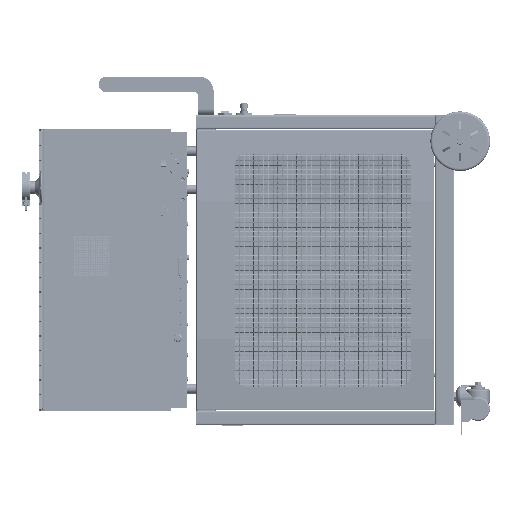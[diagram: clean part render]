
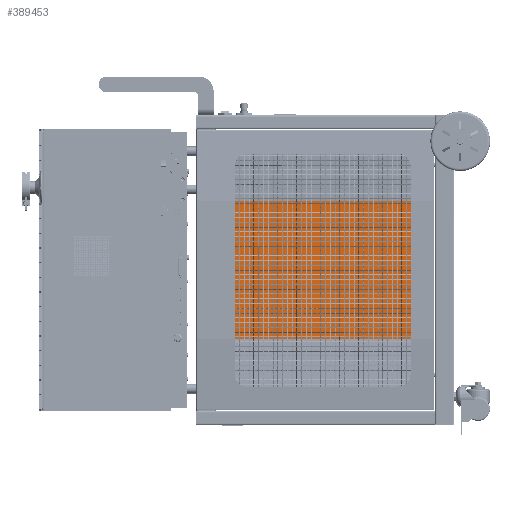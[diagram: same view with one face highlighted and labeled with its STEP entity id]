
A CAD part, left-side view. The second image highlights one B-rep face of the part: STEP entity #389453.
In plain terms, the highlighted planar face has unit normal (-1, 0, 0).
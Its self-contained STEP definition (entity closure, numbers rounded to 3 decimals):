
#14247 = CARTESIAN_POINT ( 'NONE',  ( 131.796, 175.038, 646.501 ) ) ;
#20775 = ORIENTED_EDGE ( 'NONE', *, *, #208287, .T. ) ;
#49346 = CARTESIAN_POINT ( 'NONE',  ( 131.796, 175.038, 934.42 ) ) ;
#58476 = CARTESIAN_POINT ( 'NONE',  ( 131.796, 175.038, 646.581 ) ) ;
#69037 = DIRECTION ( 'NONE',  ( 0., 0., -1. ) ) ;
#95140 = ORIENTED_EDGE ( 'NONE', *, *, #622599, .T. ) ;
#134568 = VECTOR ( 'NONE', #445907, 1000. ) ;
#137271 = VERTEX_POINT ( 'NONE', #536694 ) ;
#143299 = EDGE_LOOP ( 'NONE', ( #234136, #275909, #95140, #20775 ) ) ;
#148764 = CARTESIAN_POINT ( 'NONE',  ( 131.796, -322.962, 646.501 ) ) ;
#161588 = VECTOR ( 'NONE', #255485, 1000. ) ;
#178778 = EDGE_CURVE ( 'NONE', #137271, #483628, #502117, .T. ) ;
#208287 = EDGE_CURVE ( 'NONE', #360421, #137271, #540437, .T. ) ;
#234136 = ORIENTED_EDGE ( 'NONE', *, *, #178778, .T. ) ;
#255485 = DIRECTION ( 'NONE',  ( 0., -1., 0. ) ) ;
#275909 = ORIENTED_EDGE ( 'NONE', *, *, #423924, .T. ) ;
#303999 = LINE ( 'NONE', #58476, #161588 ) ;
#317487 = VERTEX_POINT ( 'NONE', #523112 ) ;
#327911 = AXIS2_PLACEMENT_3D ( 'NONE', #341619, #390144, #472026 ) ;
#341619 = CARTESIAN_POINT ( 'NONE',  ( 131.796, 175.038, 646.501 ) ) ;
#360421 = VERTEX_POINT ( 'NONE', #510675 ) ;
#389453 = ADVANCED_FACE ( 'NONE', ( #535582 ), #617599, .T. ) ;
#390144 = DIRECTION ( 'NONE',  ( -1., 0., 0. ) ) ;
#423924 = EDGE_CURVE ( 'NONE', #483628, #317487, #303999, .T. ) ;
#430588 = VECTOR ( 'NONE', #69037, 1000. ) ;
#445907 = DIRECTION ( 'NONE',  ( 0., 0., 1. ) ) ;
#472026 = DIRECTION ( 'NONE',  ( 0., 1., 0. ) ) ;
#483628 = VERTEX_POINT ( 'NONE', #511362 ) ;
#502117 = LINE ( 'NONE', #14247, #430588 ) ;
#504714 = DIRECTION ( 'NONE',  ( 0., 1., 0. ) ) ;
#510675 = CARTESIAN_POINT ( 'NONE',  ( 131.796, -322.962, 934.42 ) ) ;
#511362 = CARTESIAN_POINT ( 'NONE',  ( 131.796, 175.038, 646.581 ) ) ;
#523112 = CARTESIAN_POINT ( 'NONE',  ( 131.796, -322.962, 646.581 ) ) ;
#529535 = VECTOR ( 'NONE', #504714, 1000. ) ;
#535582 = FACE_OUTER_BOUND ( 'NONE', #143299, .T. ) ;
#536694 = CARTESIAN_POINT ( 'NONE',  ( 131.796, 175.038, 934.42 ) ) ;
#540437 = LINE ( 'NONE', #49346, #529535 ) ;
#549339 = LINE ( 'NONE', #148764, #134568 ) ;
#617599 = PLANE ( 'NONE',  #327911 ) ;
#622599 = EDGE_CURVE ( 'NONE', #317487, #360421, #549339, .T. ) ;
